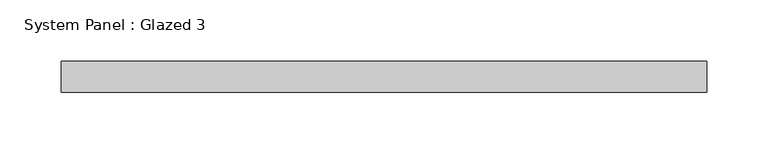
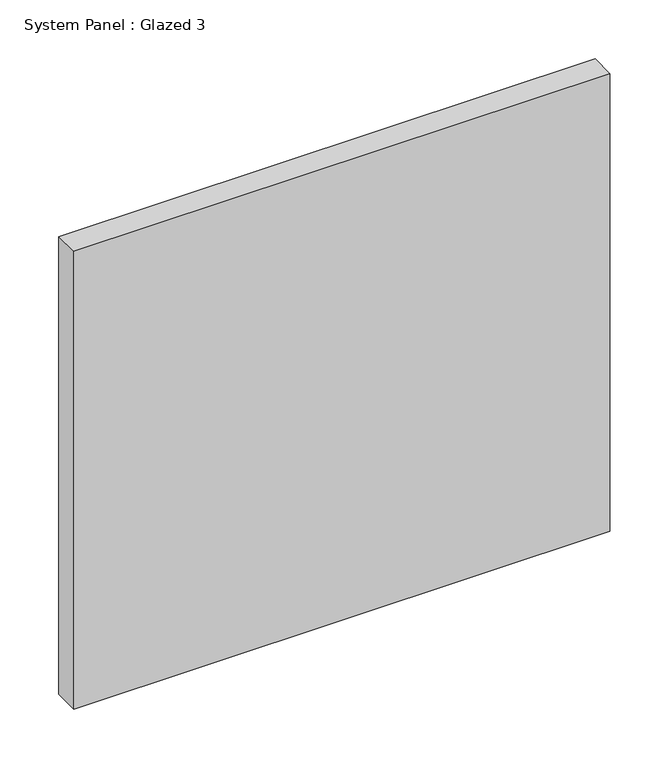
"""IFC4 building model written with IfcOpenShell, lengths in millimetres: plate geometry, System Panel : Glazed 3."""

from ifc_helpers import new_model, si_unit, origin, origin_with_axes, place, context, project, spatial, polyline, outline, extrude, source, transform, mapped, element, save


def system_panel_glazed_3_5270101a(model_context):
    return source(origin(), model_context, "Body", "SweptSolid", [
        extrude(outline(polyline([(262.5, -12.5), (-262.5, -12.5), (-262.5, 12.5), (262.5, 12.5), (262.5, -12.5)])), origin_with_axes(), (0.0, 0.0, 1.0), 474.0),
    ])


if __name__ == "__main__":
    model = new_model("IFC4")
    model_context = context("Model", 3, world=origin())
    ifc_project = project(units=[si_unit("LENGTHUNIT", "METRE", prefix="MILLI")], contexts=[model_context])
    site = spatial("IfcSite", under=ifc_project)
    building = spatial("IfcBuilding", under=site)
    placement = place(None, origin())
    system_panel_glazed_3_shape = system_panel_glazed_3_5270101a(model_context)
    element("IfcPlate", 1, ObjectType="System Panel : Glazed 3", at=placement, inside=building, context=model_context, shape_type="MappedRepresentation", body=[
        mapped(system_panel_glazed_3_shape, transform((0.0, 0.0, 0.0), x_axis=(1.0, 0.0, 0.0), y_axis=(0.0, 1.0, 0.0), z_axis=(0.0, 0.0, 1.0))),
    ])
    save(model, "model.ifc")
